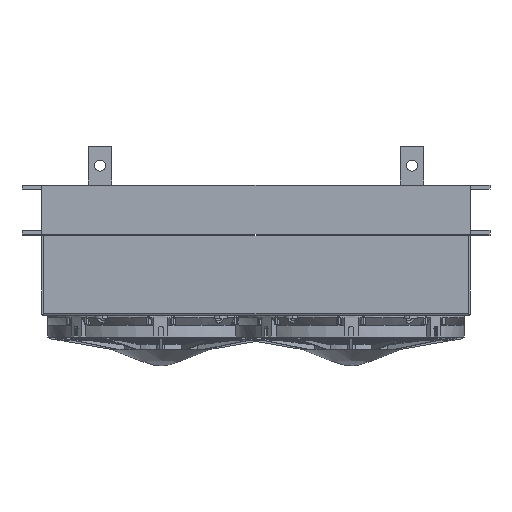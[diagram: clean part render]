
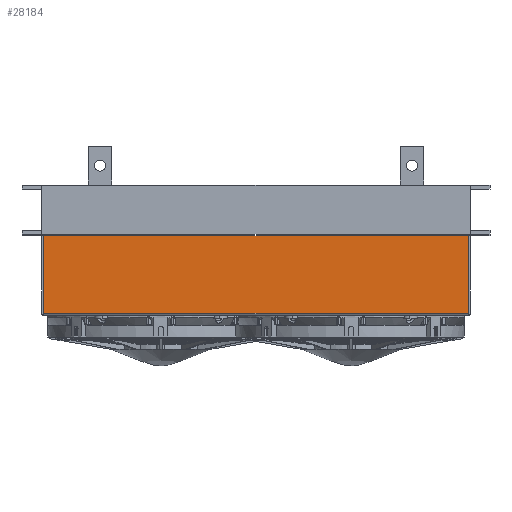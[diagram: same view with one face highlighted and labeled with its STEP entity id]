
A CAD part, left-side view. The second image highlights one B-rep face of the part: STEP entity #28184.
In plain terms, the highlighted planar face has unit normal (-1, 0, 0) as drawn and (0, 1, 0) by its records, which use the part's own axes.
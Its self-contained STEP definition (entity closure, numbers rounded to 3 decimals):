
#923 = EDGE_CURVE ( 'NONE', #66828, #70596, #50166, .T. ) ;
#3171 = DIRECTION ( 'NONE',  ( -1., 0., 0. ) ) ;
#3248 = LINE ( 'NONE', #45388, #61257 ) ;
#3427 = EDGE_CURVE ( 'NONE', #6543, #66828, #60197, .T. ) ;
#6543 = VERTEX_POINT ( 'NONE', #17802 ) ;
#9225 = ORIENTED_EDGE ( 'NONE', *, *, #66437, .F. ) ;
#12066 = CARTESIAN_POINT ( 'NONE',  ( -272.263, 267., 2.737 ) ) ;
#17802 = CARTESIAN_POINT ( 'NONE',  ( 272.263, 267., 102. ) ) ;
#18544 = ORIENTED_EDGE ( 'NONE', *, *, #37367, .F. ) ;
#19372 = DIRECTION ( 'NONE',  ( 0., 0., -1. ) ) ;
#24886 = ORIENTED_EDGE ( 'NONE', *, *, #923, .F. ) ;
#24890 = DIRECTION ( 'NONE',  ( 0., 0., -1. ) ) ;
#26011 = AXIS2_PLACEMENT_3D ( 'NONE', #68725, #46602, #24890 ) ;
#28184 = ADVANCED_FACE ( 'NONE', ( #57421 ), #68484, .F. ) ;
#31270 = CARTESIAN_POINT ( 'NONE',  ( -272.263, 267., 102. ) ) ;
#35619 = VECTOR ( 'NONE', #19372, 1000. ) ;
#35810 = CARTESIAN_POINT ( 'NONE',  ( 272.263, 267., 102. ) ) ;
#37367 = EDGE_CURVE ( 'NONE', #53453, #6543, #3248, .T. ) ;
#41798 = DIRECTION ( 'NONE',  ( 1., 0., 0. ) ) ;
#43823 = LINE ( 'NONE', #47590, #56583 ) ;
#45388 = CARTESIAN_POINT ( 'NONE',  ( 272.263, 267., 102. ) ) ;
#46452 = ORIENTED_EDGE ( 'NONE', *, *, #3427, .F. ) ;
#46602 = DIRECTION ( 'NONE',  ( 0., -1., 0. ) ) ;
#47590 = CARTESIAN_POINT ( 'NONE',  ( -272.263, 267., 2.737 ) ) ;
#50166 = LINE ( 'NONE', #31270, #35619 ) ;
#50854 = VECTOR ( 'NONE', #3171, 1000. ) ;
#51121 = DIRECTION ( 'NONE',  ( 0., 0., 1. ) ) ;
#53453 = VERTEX_POINT ( 'NONE', #60743 ) ;
#56583 = VECTOR ( 'NONE', #41798, 1000. ) ;
#57238 = CARTESIAN_POINT ( 'NONE',  ( -272.263, 267., 102. ) ) ;
#57421 = FACE_OUTER_BOUND ( 'NONE', #69710, .T. ) ;
#60197 = LINE ( 'NONE', #35810, #50854 ) ;
#60743 = CARTESIAN_POINT ( 'NONE',  ( 272.263, 267., 2.737 ) ) ;
#61257 = VECTOR ( 'NONE', #51121, 1000. ) ;
#66437 = EDGE_CURVE ( 'NONE', #70596, #53453, #43823, .T. ) ;
#66828 = VERTEX_POINT ( 'NONE', #57238 ) ;
#68484 = PLANE ( 'NONE',  #26011 ) ;
#68725 = CARTESIAN_POINT ( 'NONE',  ( 272.263, 267., 102. ) ) ;
#69710 = EDGE_LOOP ( 'NONE', ( #24886, #46452, #18544, #9225 ) ) ;
#70596 = VERTEX_POINT ( 'NONE', #12066 ) ;
